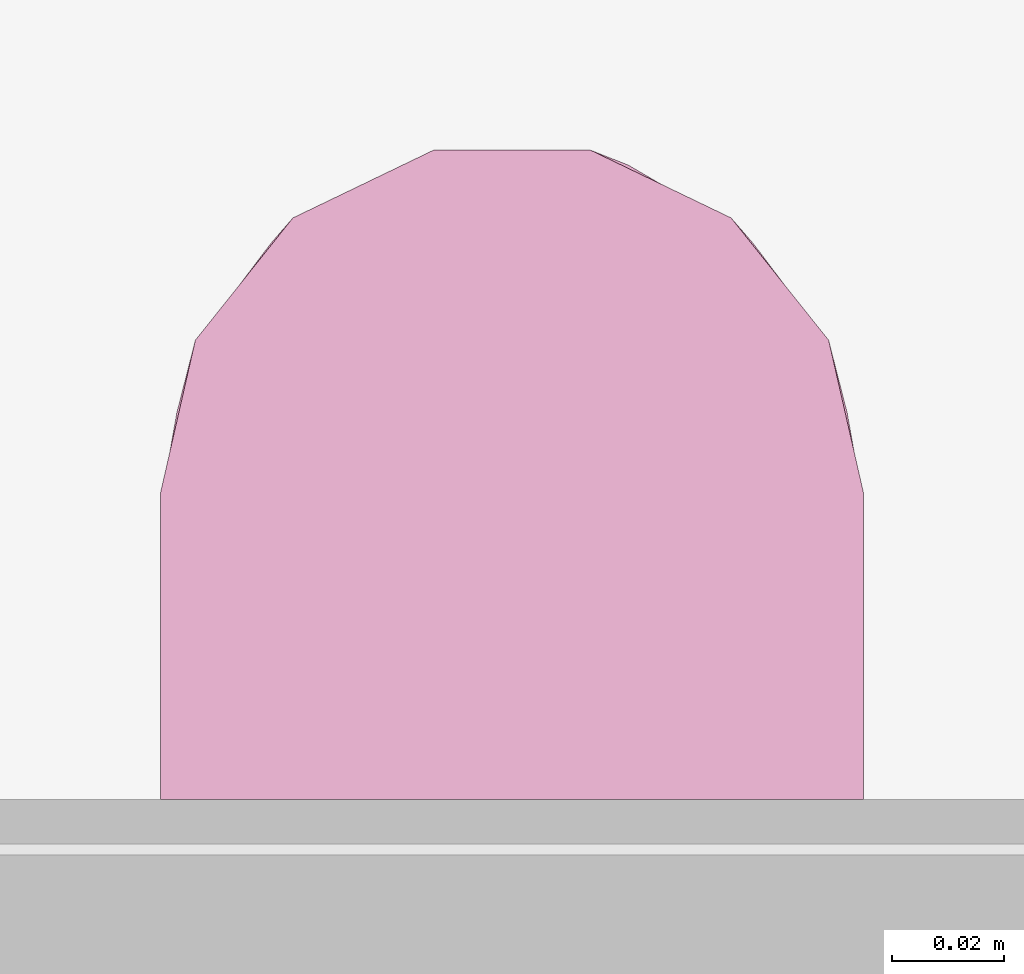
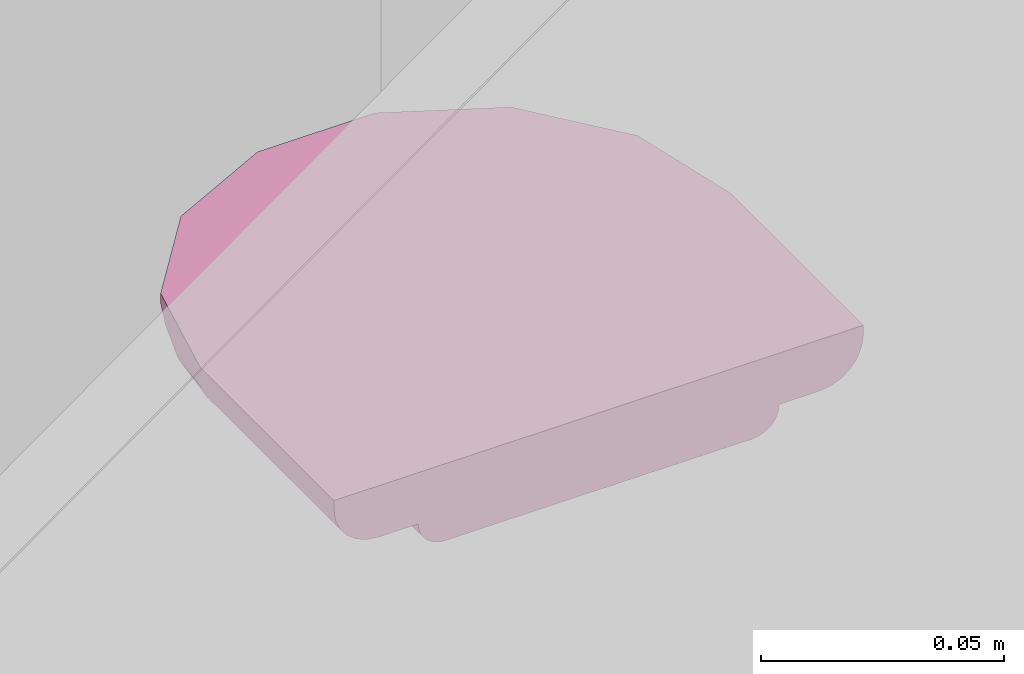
# One storey, part 47 of 48: 1 furniture element.
"""IFC4 building model written with IfcOpenShell, lengths in metres."""

from ifc_helpers import new_model, entity, si_unit, converted_unit, derived_unit, direction, frame, origin, place, context, subcontext, project, spatial, polygons, source, transform, mapped, material, type_object, type_shapes, element, save


model = new_model("IFC4")

# Units and contexts
model_context = context("Model", 3, precision=1e-05, world=origin(), true_north=direction((6.123031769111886e-17, 1.0)))
body_context = subcontext(model_context, "Body", "Model", "MODEL_VIEW")
ifc_project = project(units=[si_unit("LENGTHUNIT", "METRE"), si_unit("AREAUNIT", "SQUARE_METRE"), si_unit("VOLUMEUNIT", "CUBIC_METRE"), converted_unit("PLANEANGLEUNIT", "DEGREE", entity("IfcRatioMeasure", 0.017453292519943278), si_unit("PLANEANGLEUNIT", "RADIAN"), dimensions=[0, 0, 0, 0, 0, 0, 0]), si_unit("MASSUNIT", "GRAM", prefix="KILO"), derived_unit("MASSDENSITYUNIT", [(si_unit("MASSUNIT", "GRAM", prefix="KILO"), 1), (si_unit("LENGTHUNIT", "METRE"), -3)]), derived_unit("IONCONCENTRATIONUNIT", [(si_unit("MASSUNIT", "GRAM", prefix="KILO"), 1), (si_unit("LENGTHUNIT", "METRE"), -3)]), derived_unit("MOMENTOFINERTIAUNIT", [(si_unit("LENGTHUNIT", "METRE"), 4)]), si_unit("TIMEUNIT", "SECOND"), si_unit("FREQUENCYUNIT", "HERTZ"), si_unit("THERMODYNAMICTEMPERATUREUNIT", "DEGREE_CELSIUS"), derived_unit("THERMALTRANSMITTANCEUNIT", [(si_unit("MASSUNIT", "GRAM", prefix="KILO"), 1), (si_unit("THERMODYNAMICTEMPERATUREUNIT", "KELVIN"), -1), (si_unit("TIMEUNIT", "SECOND"), -3)]), derived_unit("THERMALCONDUCTANCEUNIT", [(si_unit("MASSUNIT", "GRAM", prefix="KILO"), 1), (si_unit("THERMODYNAMICTEMPERATUREUNIT", "KELVIN"), -1), (si_unit("TIMEUNIT", "SECOND"), -3), (si_unit("LENGTHUNIT", "METRE"), 1)]), derived_unit("VOLUMETRICFLOWRATEUNIT", [(si_unit("LENGTHUNIT", "METRE"), 3), (si_unit("TIMEUNIT", "SECOND"), -1)]), derived_unit("MASSFLOWRATEUNIT", [(si_unit("MASSUNIT", "GRAM", prefix="KILO"), 1), (si_unit("TIMEUNIT", "SECOND"), -1)]), derived_unit("ROTATIONALFREQUENCYUNIT", [(si_unit("TIMEUNIT", "SECOND"), -1)]), si_unit("ELECTRICCURRENTUNIT", "AMPERE"), si_unit("ELECTRICVOLTAGEUNIT", "VOLT"), si_unit("POWERUNIT", "WATT"), si_unit("FORCEUNIT", "NEWTON", prefix="KILO"), si_unit("ILLUMINANCEUNIT", "LUX"), si_unit("LUMINOUSFLUXUNIT", "LUMEN"), si_unit("LUMINOUSINTENSITYUNIT", "CANDELA"), derived_unit("USERDEFINED", [(si_unit("MASSUNIT", "GRAM", prefix="KILO"), -1), (si_unit("LENGTHUNIT", "METRE"), -2), (si_unit("TIMEUNIT", "SECOND"), 3), (si_unit("LUMINOUSFLUXUNIT", "LUMEN"), 1)]), derived_unit("USERDEFINED", [(si_unit("MASSUNIT", "GRAM", prefix="KILO"), 1), (si_unit("TIMEUNIT", "SECOND"), -3), (si_unit("LENGTHUNIT", "METRE"), 3), (si_unit("ELECTRICCURRENTUNIT", "AMPERE"), -2)]), derived_unit("SOUNDPOWERUNIT", [(si_unit("MASSUNIT", "GRAM", prefix="KILO"), 1), (si_unit("TIMEUNIT", "SECOND"), -3), (si_unit("LENGTHUNIT", "METRE"), 2)]), derived_unit("SOUNDPRESSUREUNIT", [(si_unit("MASSUNIT", "GRAM", prefix="KILO"), 1), (si_unit("LENGTHUNIT", "METRE"), -1), (si_unit("TIMEUNIT", "SECOND"), -2)]), derived_unit("LINEARVELOCITYUNIT", [(si_unit("LENGTHUNIT", "METRE"), 1), (si_unit("TIMEUNIT", "SECOND"), -1)]), si_unit("PRESSUREUNIT", "PASCAL"), derived_unit("USERDEFINED", [(si_unit("MASSUNIT", "GRAM", prefix="KILO"), 1), (si_unit("LENGTHUNIT", "METRE"), -2), (si_unit("TIMEUNIT", "SECOND"), -2)]), derived_unit("LINEARFORCEUNIT", [(si_unit("MASSUNIT", "GRAM", prefix="KILO"), 1), (si_unit("TIMEUNIT", "SECOND"), -2)]), derived_unit("PLANARFORCEUNIT", [(si_unit("MASSUNIT", "GRAM", prefix="KILO"), 1), (si_unit("LENGTHUNIT", "METRE"), -1), (si_unit("TIMEUNIT", "SECOND"), -2)]), derived_unit("SPECIFICHEATCAPACITYUNIT", [(si_unit("THERMODYNAMICTEMPERATUREUNIT", "KELVIN"), -1), (si_unit("LENGTHUNIT", "METRE"), 2), (si_unit("TIMEUNIT", "SECOND"), -2)]), derived_unit("HEATINGVALUEUNIT", [(si_unit("LENGTHUNIT", "METRE"), 2), (si_unit("TIMEUNIT", "SECOND"), -2)]), derived_unit("VAPORPERMEABILITYUNIT", [(si_unit("LENGTHUNIT", "METRE"), -1), (si_unit("TIMEUNIT", "SECOND"), 1)]), derived_unit("DYNAMICVISCOSITYUNIT", [(si_unit("MASSUNIT", "GRAM", prefix="KILO"), 1), (si_unit("TIMEUNIT", "SECOND"), -1), (si_unit("LENGTHUNIT", "METRE"), -1)]), derived_unit("THERMALEXPANSIONCOEFFICIENTUNIT", [(si_unit("THERMODYNAMICTEMPERATUREUNIT", "KELVIN"), -1)]), derived_unit("MODULUSOFELASTICITYUNIT", [(si_unit("MASSUNIT", "GRAM", prefix="KILO"), 1), (si_unit("LENGTHUNIT", "METRE"), -1), (si_unit("TIMEUNIT", "SECOND"), -2)]), derived_unit("ISOTHERMALMOISTURECAPACITYUNIT", [(si_unit("LENGTHUNIT", "METRE"), 3), (si_unit("MASSUNIT", "GRAM", prefix="KILO"), -1)]), derived_unit("MOISTUREDIFFUSIVITYUNIT", [(si_unit("TIMEUNIT", "SECOND"), -1), (si_unit("LENGTHUNIT", "METRE"), 2)])], contexts=[model_context])

# Site, building, storey, space
site_placement = place(None, origin())
site = spatial("IfcSite", under=ifc_project, at=site_placement, Name="Default", CompositionType="ELEMENT")
building_placement = place(site_placement, origin())
building = spatial("IfcBuilding", under=site, at=building_placement, CompositionType="ELEMENT")
storey_placement = place(building_placement, frame((0.0, 0.0, 7.050000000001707)))
storey = spatial("IfcBuildingStorey", under=building, at=storey_placement, Name="Nivel 4", CompositionType="ELEMENT", Elevation=7.050000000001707)
space_placement = place(storey_placement, origin())
space = spatial("IfcSpace", under=storey, at=space_placement, Name="218", CompositionType="ELEMENT", PredefinedType="SPACE")

# Furniture
ifc_material = material(Name="CERAMICA APARATOS", Category="Materials")
furniture_type = type_object("IfcFurnitureType", Name="E2050 - Jabonera:E2050 - Jabonera - Ceramica", AssemblyPlace="NOTDEFINED", PredefinedType="NOTDEFINED", material=ifc_material)
shared_shape = source(origin(), body_context, "Body", "Tessellation", [
    polygons([(-0.05252423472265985, -0.012920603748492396, -3.98642579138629e-15), (-0.05523556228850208, -0.012563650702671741, -3.97690233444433e-15), (-0.05776211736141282, -0.011517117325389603, -3.958155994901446e-15), (-0.059931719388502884, -0.00985232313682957, -3.931464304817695e-15), (-0.06159651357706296, -0.007682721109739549, -3.898646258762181e-15), (-0.06264304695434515, -0.005156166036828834, -3.8619383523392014e-15), (-0.0630000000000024, -0.002444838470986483, -3.823842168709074e-15), (-0.0630000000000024, -8.82367512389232e-15, -3.79003495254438e-15), (0.06300000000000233, -8.823675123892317e-15, -4.003224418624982e-15), (0.06300000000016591, -0.002444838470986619, -4.037031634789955e-15), (0.06264304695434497, -0.0051561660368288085, -4.073919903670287e-15), (0.06159651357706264, -0.007682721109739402, -4.107086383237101e-15), (0.059931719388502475, -0.009852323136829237, -4.134270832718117e-15), (0.05776211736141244, -0.011517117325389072, -4.153620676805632e-15), (0.055235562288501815, -0.012563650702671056, -4.163817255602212e-15), (0.05252423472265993, -0.012920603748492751, -4.164165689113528e-15), (0.04300000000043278, -0.01292060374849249, -4.1480508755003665e-15), (0.042779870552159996, -0.01459265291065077, -4.170799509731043e-15), (0.04213448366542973, -0.01615075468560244, -4.191252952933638e-15), (0.041107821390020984, -0.01748872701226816, -4.20801733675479e-15), (0.03976984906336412, -0.018515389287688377, -4.219950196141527e-15), (0.03821174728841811, -0.019160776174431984, -4.226238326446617e-15), (0.03653969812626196, -0.019380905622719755, -4.226453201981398e-15), (-0.03653969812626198, -0.019380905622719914, -4.1028043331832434e-15), (-0.03821174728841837, -0.019160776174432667, -4.096931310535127e-15), (-0.03976984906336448, -0.018515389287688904, -4.08537062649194e-15), (-0.04110782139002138, -0.017488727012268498, -4.068910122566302e-15), (-0.042134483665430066, -0.01615075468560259, -4.0486715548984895e-15), (-0.04277987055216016, -0.014592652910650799, -4.026034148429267e-15), (-0.04300000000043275, -0.012920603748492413, -4.002540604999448e-15), (-0.05252423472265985, -0.012920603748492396, 0.05500000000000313), (-0.05523556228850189, -0.012563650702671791, 0.05500000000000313), (-0.05776211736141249, -0.011517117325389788, 0.05500000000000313), (-0.0599317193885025, -0.009852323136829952, 0.05500000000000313), (-0.06159651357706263, -0.007682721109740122, 0.05500000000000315), (-0.06264304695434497, -0.005156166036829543, 0.05500000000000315), (-0.06300000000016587, -0.0024448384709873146, 0.055000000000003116), (-0.0630000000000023, -9.584537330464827e-15, 0.05500000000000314), (-0.05676103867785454, -9.98278301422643e-15, 0.08233467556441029), (-0.03927985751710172, -1.0341963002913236e-14, 0.10425538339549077), (-0.014018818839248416, -1.0591040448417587e-14, 0.11642045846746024), (0.014018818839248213, -1.0680682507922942e-14, 0.11642045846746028), (0.03927985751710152, -1.0593134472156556e-14, 0.1042553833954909), (0.05676103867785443, -1.0345736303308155e-14, 0.08233467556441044), (0.06300000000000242, -9.987488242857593e-15, 0.055000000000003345), (-0.036539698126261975, -0.019380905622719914, 0.055000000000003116), (-0.03821174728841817, -0.019160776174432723, 0.055000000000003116), (-0.03976984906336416, -0.018515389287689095, 0.055000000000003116), (-0.04110782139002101, -0.017488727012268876, 0.055000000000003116), (-0.04213448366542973, -0.016150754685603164, 0.055000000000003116), (-0.042779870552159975, -0.014592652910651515, 0.055000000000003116), (-0.04300000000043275, -0.012920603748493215, 0.05500000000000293), (-0.03723909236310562, -0.012920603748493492, 0.07650000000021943), (-0.021500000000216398, -0.012920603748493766, 0.09223909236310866), (-7.613909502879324e-17, -0.012920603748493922, 0.09800000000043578), (0.021500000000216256, -0.012920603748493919, 0.09223909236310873), (0.03723909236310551, -0.012920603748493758, 0.07650000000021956), (0.04300000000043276, -0.012920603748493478, 0.05500000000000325), (0.05252423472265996, -0.012920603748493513, 0.05500000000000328), (0.04732270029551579, -0.012920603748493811, 0.0777894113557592), (0.03274832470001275, -0.012920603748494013, 0.09606510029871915), (0.011687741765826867, -0.012920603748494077, 0.106207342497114), (-0.011687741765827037, -0.012920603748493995, 0.10620734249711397), (-0.0327483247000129, -0.012920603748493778, 0.09606510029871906), (-0.0473227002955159, -0.012920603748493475, 0.07778941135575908), (0.05523556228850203, -0.012563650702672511, 0.05500000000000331), (0.05776211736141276, -0.011517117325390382, 0.05500000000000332), (0.059931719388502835, -0.009852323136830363, 0.055000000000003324), (0.06159651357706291, -0.007682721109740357, 0.05500000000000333), (0.06264304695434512, -0.005156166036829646, 0.055000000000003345), (0.06300000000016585, -0.002444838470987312, 0.055000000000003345), (0.05676103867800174, -0.002444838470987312, 0.08233467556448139), (0.039279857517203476, -0.002444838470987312, 0.10425538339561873), (0.014018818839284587, -0.002444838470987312, 0.11642045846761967), (-0.01401881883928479, -0.002444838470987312, 0.11642045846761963), (-0.03927985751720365, -0.002444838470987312, 0.10425538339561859), (-0.056761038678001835, -0.002444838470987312, 0.08233467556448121), (-0.05541537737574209, -0.00994065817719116, 0.0775884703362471), (0.05541537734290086, -0.009940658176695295, 0.07758847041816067), (-0.06068843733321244, -0.002444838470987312, 0.06512761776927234), (0.06068843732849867, -0.002444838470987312, 0.06512761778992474), (-0.06009482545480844, -0.0073735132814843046, 0.06927989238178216), (0.06009482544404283, -0.007373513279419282, 0.06927989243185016), (1.1920939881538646e-10, -0.009647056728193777, 0.11513144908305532), (-0.02296028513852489, -0.010016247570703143, 0.11017763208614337), (0.022960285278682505, -0.010016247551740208, 0.11017763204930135), (-0.0423486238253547, -0.010229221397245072, 0.09684448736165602), (0.04234862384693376, -0.010229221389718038, 0.09684448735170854), (-0.049923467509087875, -0.012920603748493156, 0.06639470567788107), (0.04992346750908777, -0.012920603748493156, 0.06639470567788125), (-0.05703578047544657, -0.0065083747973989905, 0.07976375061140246), (-0.048020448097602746, -0.002444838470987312, 0.0932950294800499), (-0.05024267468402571, -0.007894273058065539, 0.09041697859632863), (-0.04930529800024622, -0.01152280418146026, 0.08507175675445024), (-0.04320181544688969, -0.006488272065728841, 0.09973226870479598), (-0.026649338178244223, -0.002444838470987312, 0.11033792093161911), (-0.033651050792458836, -0.008354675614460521, 0.10608663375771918), (-0.033585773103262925, -0.011709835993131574, 0.10156463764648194), (-0.04003551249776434, -0.012920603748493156, 0.08692725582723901), (-0.020861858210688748, -0.0061859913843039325, 0.11371301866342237), (-0.008798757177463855, -0.006760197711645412, 0.11644307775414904), (-1.0151879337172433e-16, -0.002444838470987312, 0.11642045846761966), (-0.011582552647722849, -0.010395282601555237, 0.1132044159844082), (-8.671396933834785e-17, -0.012920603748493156, 0.10620734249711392), (0.005858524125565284, -0.012067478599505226, 0.1113613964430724), (0.011714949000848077, -0.009815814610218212, 0.11381264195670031), (0.01809843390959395, -0.006648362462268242, 0.11442472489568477), (0.02664933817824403, -0.002444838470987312, 0.11033792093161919), (0.033532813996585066, -0.007293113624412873, 0.10692394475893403), (0.03311804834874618, -0.010897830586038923, 0.10347984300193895), (0.05703578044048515, -0.006508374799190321, 0.07976375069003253), (0.0480204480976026, -0.002444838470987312, 0.09329502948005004), (0.050242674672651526, -0.007894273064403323, 0.09041697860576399), (0.04930529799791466, -0.01152280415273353, 0.08507175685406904), (0.043201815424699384, -0.006488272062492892, 0.09973226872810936), (-0.022218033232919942, -0.012920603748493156, 0.10113622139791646), (0.02221803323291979, -0.012920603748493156, 0.10113622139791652), (0.04003551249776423, -0.012920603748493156, 0.08692725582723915), (-0.05917785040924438, -0.002444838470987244, 0.07174593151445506), (-0.059880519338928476, -9.58464048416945e-15, 0.06866733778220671), (-0.04802044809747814, -9.584640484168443e-15, 0.09329502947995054), (-0.02664933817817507, -9.584640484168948e-15, 0.11033792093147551), (-1.0151879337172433e-16, -9.584640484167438e-15, 0.11642045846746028), (0.026649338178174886, -9.584640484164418e-15, 0.1103379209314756), (0.048020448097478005, -9.584640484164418e-15, 0.09329502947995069), (0.05917785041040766, -9.584640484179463e-15, 0.07174593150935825), (0.05988051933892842, -0.002444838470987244, 0.06866733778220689), (-0.03529463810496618, -0.019380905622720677, 0.0644571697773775), (-0.031644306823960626, -0.019380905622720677, 0.07326984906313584), (-0.025837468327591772, -0.019380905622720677, 0.08083746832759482), (-0.018269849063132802, -0.019380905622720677, 0.08664430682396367), (-0.009457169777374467, -0.019380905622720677, 0.09029463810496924), (-6.388409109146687e-17, -0.019380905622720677, 0.09153969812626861), (0.00945716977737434, -0.019380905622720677, 0.09029463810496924), (0.018269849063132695, -0.019380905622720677, 0.08664430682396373), (0.025837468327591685, -0.019380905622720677, 0.08083746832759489), (0.03164430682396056, -0.019380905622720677, 0.07326984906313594), (0.035294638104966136, -0.019380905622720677, 0.06445716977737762), (0.03653969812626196, -0.019380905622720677, 0.05500000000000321), (0.03821174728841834, -0.01916077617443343, 0.05500000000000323), (0.03976984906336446, -0.01851538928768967, 0.055000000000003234), (0.041107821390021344, -0.01748872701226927, 0.05500000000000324), (0.04213448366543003, -0.01615075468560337, 0.05500000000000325), (0.04277987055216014, -0.014592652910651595, 0.05500000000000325), (-0.039354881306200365, -0.01681536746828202, 0.06876876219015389), (0.039354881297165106, -0.016815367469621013, 0.0687687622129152), (-0.03969397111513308, -0.012920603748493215, 0.06733826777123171), (0.039693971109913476, -0.012920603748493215, 0.06733826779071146), (-0.029990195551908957, -0.017045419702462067, 0.0837021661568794), (0.02999019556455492, -0.017045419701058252, 0.08370216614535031), (-0.014068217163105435, -0.017293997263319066, 0.09382432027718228), (0.0140682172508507, -0.01729399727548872, 0.0938243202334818), (-0.0414288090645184, -0.016256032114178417, 0.06233060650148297), (0.04142880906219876, -0.016256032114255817, 0.06233060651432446), (-0.03509474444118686, -0.018469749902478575, 0.07387308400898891), (0.03509474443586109, -0.018469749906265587, 0.07387308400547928), (-0.022452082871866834, -0.018468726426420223, 0.08792225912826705), (-0.004758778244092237, -0.018468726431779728, 0.09456419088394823), (0.022452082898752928, -0.018468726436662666, 0.08792225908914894), (-0.010750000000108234, -0.012920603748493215, 0.09511954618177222), (-0.01649269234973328, -0.014958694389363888, 0.09435387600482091), (-0.02403627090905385, -0.015817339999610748, 0.08982450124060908), (-0.029369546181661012, -0.012920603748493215, 0.08436954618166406), (-0.005391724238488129, -0.015874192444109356, 0.09694013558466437), (0.003951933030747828, -0.017201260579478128, 0.09618908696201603), (-0.029447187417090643, -0.018870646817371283, 0.08065629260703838), (0.029447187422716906, -0.018870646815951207, 0.08065629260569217), (0.004753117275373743, -0.01891047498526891, 0.09366878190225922), (0.01247662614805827, -0.01887114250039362, 0.09200843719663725), (-0.013974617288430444, -0.018938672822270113, 0.09129118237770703), (0.021812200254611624, -0.016118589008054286, 0.09107073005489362), (-0.035603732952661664, -0.016145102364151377, 0.07753804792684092), (0.03560373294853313, -0.01614510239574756, 0.07753804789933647), (-0.0379779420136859, -0.01877351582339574, 0.06500795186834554), (0.03797794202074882, -0.018773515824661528, 0.06500795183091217), (0.029369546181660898, -0.012920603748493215, 0.08436954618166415), (0.010750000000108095, -0.012920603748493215, 0.09511954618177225)], [[[8, 9, 10, 11, 12, 13, 14, 15, 16, 17, 18, 19, 20, 21, 22, 23, 24, 25, 26, 27, 28, 29, 30, 1, 2, 3, 4, 5, 6, 7]], [[1, 31, 32, 2]], [[24, 46, 47, 25]], [[2, 32, 33, 3]], [[25, 47, 48, 26]], [[3, 33, 34, 4]], [[26, 48, 49, 27]], [[5, 35, 36, 6]], [[50, 51, 29, 28]], [[6, 36, 37, 7]], [[51, 52, 30, 29]], [[4, 34, 35, 5]], [[27, 49, 50, 28]], [[8, 7, 37, 38]], [[8, 38, 120, 39, 121, 40, 122, 41, 123, 42, 124, 43, 125, 44, 126, 45, 9]], [[17, 16, 59, 90, 60, 118, 61, 117, 62, 104, 63, 116, 64, 99, 65, 89, 31, 1, 30, 52, 147, 53, 163, 54, 160, 55, 177, 56, 176, 57, 148, 58]], [[133, 132, 131, 130, 129, 128, 46, 24, 23, 139, 138, 137, 136, 135, 134]], [[78, 33, 32]], [[90, 66, 79]], [[94, 87, 93]], [[65, 94, 89]], [[80, 37, 36]], [[36, 82, 80]], [[94, 99, 87]], [[70, 71, 81]], [[109, 107, 86]], [[116, 98, 64]], [[82, 36, 35]], [[93, 95, 92]], [[78, 94, 93]], [[34, 33, 82]], [[91, 92, 77]], [[97, 95, 87]], [[34, 82, 35]], [[33, 78, 82]], [[91, 82, 78]], [[82, 77, 119, 80]], [[77, 82, 91]], [[113, 115, 88]], [[63, 104, 103]], [[95, 93, 87]], [[105, 86, 106]], [[93, 91, 78]], [[98, 85, 97]], [[61, 118, 110]], [[66, 67, 79]], [[110, 88, 109]], [[76, 95, 97]], [[114, 90, 79]], [[105, 106, 84]], [[83, 67, 68]], [[32, 89, 78]], [[74, 107, 108]], [[111, 113, 79]], [[90, 59, 66]], [[79, 83, 111]], [[101, 75, 100]], [[83, 79, 67]], [[83, 81, 127, 72]], [[84, 102, 101]], [[81, 83, 70]], [[69, 83, 68]], [[32, 31, 89]], [[101, 103, 84]], [[105, 84, 103]], [[114, 79, 113]], [[70, 83, 69]], [[92, 91, 93]], [[89, 94, 78]], [[87, 99, 98]], [[100, 75, 96]], [[92, 95, 76]], [[87, 98, 97]], [[100, 97, 85]], [[76, 97, 96]], [[65, 99, 94]], [[103, 116, 63]], [[97, 100, 96]], [[64, 98, 99]], [[103, 101, 100]], [[103, 100, 85]], [[103, 85, 116]], [[106, 107, 84]], [[102, 75, 101]], [[104, 105, 103]], [[61, 110, 117]], [[105, 104, 62]], [[86, 105, 62]], [[86, 107, 106]], [[107, 102, 84]], [[108, 107, 109]], [[102, 107, 74]], [[108, 109, 73]], [[110, 109, 86]], [[111, 72, 112]], [[110, 86, 117]], [[60, 114, 118]], [[83, 72, 111]], [[88, 114, 113]], [[115, 109, 88]], [[111, 112, 113]], [[115, 112, 73]], [[114, 88, 118]], [[90, 114, 60]], [[112, 115, 113]], [[109, 115, 73]], [[98, 116, 85]], [[86, 62, 117]], [[110, 118, 88]], [[77, 39, 120, 38, 37, 80, 119]], [[121, 39, 77, 92, 76, 40]], [[126, 44, 72, 127, 81, 71, 45]], [[96, 75, 41, 122, 40, 76]], [[123, 41, 75, 102, 74, 42]], [[73, 43, 124, 42, 74, 108]], [[43, 73, 112, 72, 44, 125]], [[46, 128, 174]], [[133, 134, 168]], [[146, 156, 175]], [[128, 155, 174]], [[130, 131, 157]], [[151, 161, 162]], [[131, 170, 157]], [[147, 52, 51]], [[155, 145, 174]], [[156, 137, 138]], [[166, 157, 149]], [[131, 132, 170]], [[147, 145, 53]], [[173, 176, 150]], [[51, 50, 153]], [[161, 54, 162]], [[153, 49, 48]], [[165, 55, 164]], [[166, 129, 130]], [[151, 162, 157]], [[173, 150, 156]], [[154, 146, 175]], [[144, 58, 148]], [[48, 174, 153]], [[167, 159, 136]], [[174, 48, 47]], [[151, 170, 158]], [[151, 158, 164]], [[152, 165, 169]], [[173, 156, 146]], [[172, 155, 149]], [[136, 159, 135]], [[136, 137, 167]], [[148, 146, 154]], [[156, 138, 175]], [[155, 172, 145]], [[144, 154, 143]], [[159, 152, 169]], [[166, 155, 129]], [[175, 139, 140]], [[154, 141, 142]], [[145, 147, 153]], [[49, 153, 50]], [[152, 159, 171]], [[154, 142, 143]], [[154, 175, 141]], [[162, 163, 149]], [[171, 56, 177]], [[146, 148, 57]], [[158, 132, 133]], [[54, 161, 160]], [[148, 154, 144]], [[160, 161, 164]], [[155, 128, 129]], [[51, 153, 147]], [[165, 168, 169]], [[167, 156, 150]], [[150, 176, 171]], [[164, 161, 151]], [[53, 172, 163]], [[157, 162, 149]], [[162, 54, 163]], [[165, 164, 158]], [[160, 164, 55]], [[158, 133, 168]], [[152, 177, 165]], [[157, 166, 130]], [[155, 166, 149]], [[156, 167, 137]], [[159, 167, 150]], [[168, 134, 169]], [[158, 168, 165]], [[134, 135, 169]], [[159, 169, 135]], [[158, 170, 132]], [[157, 170, 151]], [[150, 171, 159]], [[55, 165, 177]], [[163, 172, 149]], [[53, 145, 172]], [[146, 57, 173]], [[171, 177, 152]], [[174, 145, 153]], [[46, 174, 47]], [[139, 175, 138]], [[141, 175, 140]], [[176, 173, 57]], [[56, 171, 176]], [[59, 16, 15, 66]], [[139, 23, 22, 140]], [[66, 15, 14, 67]], [[140, 22, 21, 141]], [[67, 14, 13, 68]], [[141, 21, 20, 142]], [[69, 12, 11, 70]], [[19, 18, 144, 143]], [[70, 11, 10, 71]], [[18, 17, 58, 144]], [[68, 13, 12, 69]], [[142, 20, 19, 143]], [[45, 71, 10, 9]]], closed=True),
])
type_shapes(furniture_type, [shared_shape])
furniture_placement = place(space_placement, frame((15.447498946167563, -6.355000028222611, 1.2499999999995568), z_axis=(0.0, 1.0, 0.0), x_axis=(-1.0, 0.0, 0.0)))
element("IfcFurniture", 1, at=furniture_placement, inside=space, type_object=furniture_type, material=ifc_material, Name="E2050 - Jabonera:E2050 - Jabonera - Ceramica", ObjectType="E2050 - Jabonera:E2050 - Jabonera - Ceramica", PredefinedType="NOTDEFINED", context=body_context, shape_type="MappedRepresentation", body=[
    mapped(shared_shape, transform((0.0, 0.0, 0.0), scale=1.0)),
])

save(model, "model.ifc")
